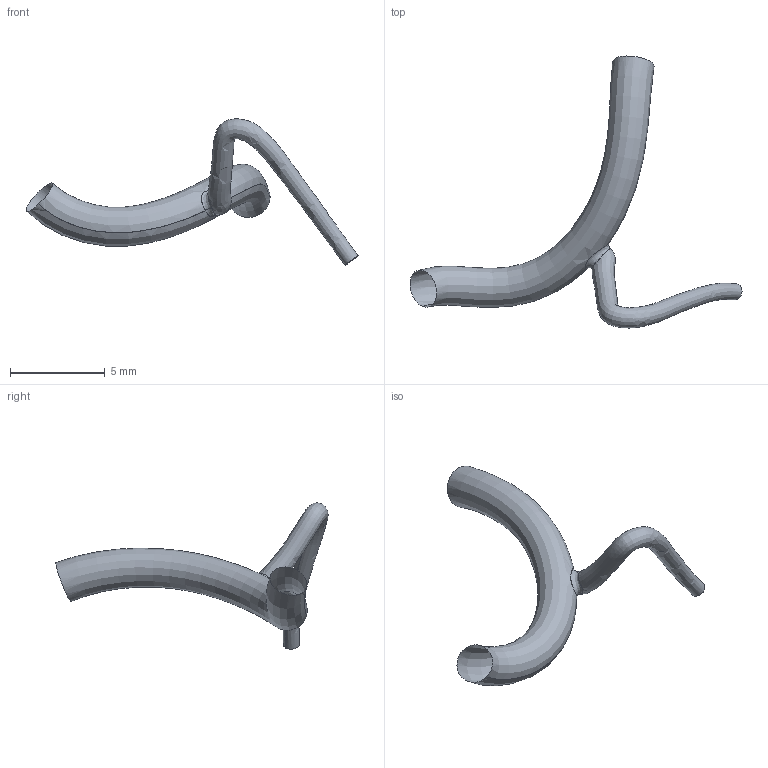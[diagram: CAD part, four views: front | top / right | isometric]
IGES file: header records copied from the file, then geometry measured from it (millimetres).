
Global section: file name: C:\Documents and Settings\Administrator\Desktop\FDA-Pig\Domestic RCA\Pig_000005\avc.ed.igs; native system: Rhinoceros ( May 19 2006 ); preprocessor: Trout Lake IGES 012 May 19 2006; date: 111205.185142; units: centimetre
Bounding box: 17.48 x 14.33 x 7.71 mm (x, y, z)
Surface area: 176.8 mm2 (no closed solid volume)
Topology: 0 solids, 0 shells, 5 faces, 43 edges, 42 vertices
Faces by surface type: bspline 5
